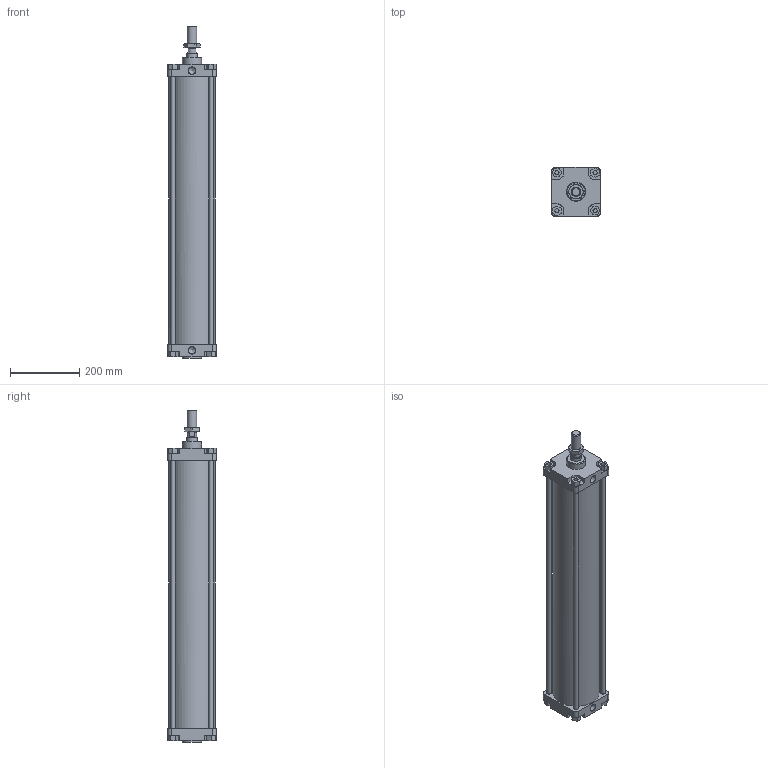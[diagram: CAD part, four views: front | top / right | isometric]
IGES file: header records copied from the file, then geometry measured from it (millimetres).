
Global section: file name: 1303_125_0700_01A; native system: Autodesk Inventor 2014; preprocessor: unknown; author: A. Manieri; date: 20161124.141629; units: millimetre
Bounding box: 140 x 140 x 958 mm (x, y, z)
Volume: 4401649.7 mm3; surface area: 1030092.3 mm2
Topology: 9 solids, 9 shells, 175 faces, 440 edges, 295 vertices
Faces by surface type: bspline 175
